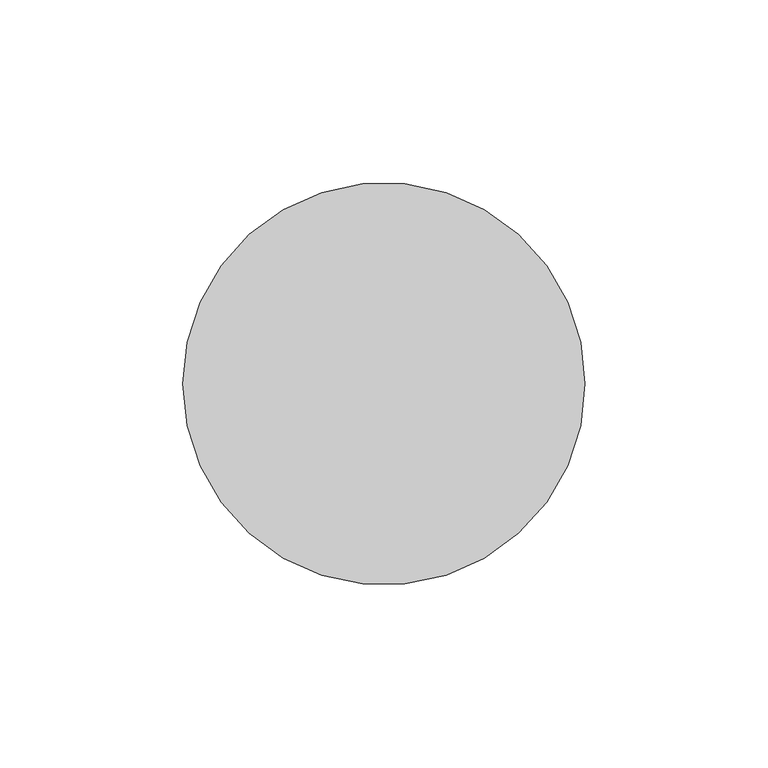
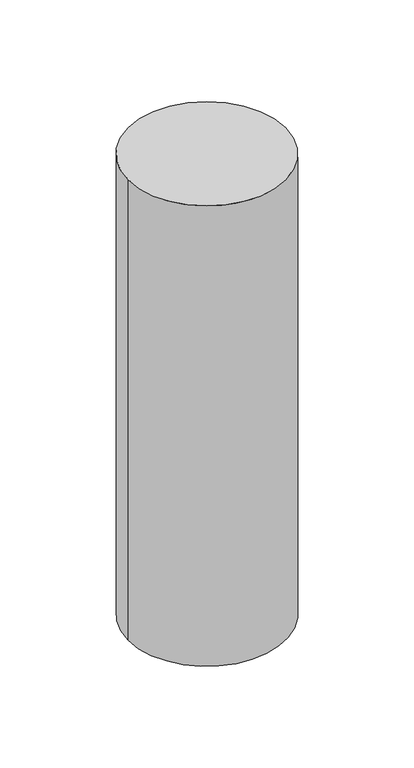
"""IFC4 building model written with IfcOpenShell, lengths in millimetres: proxy geometry, Building Materials_Other_Accessory_LEG_for ATLANTIS : LEG_Ø110."""

from ifc_helpers import new_model, si_unit, point, origin, origin_with_axes, origin_2d, place, context, project, spatial, circle_curve, trimmed, segment, composite_curve, outline, extrude, source, transform, mapped, element, save


def generic_models_4fecf16d(model_context):
    return source(origin(), model_context, "Body", "SweptSolid", [
        extrude(outline(composite_curve([segment(trimmed(circle_curve(origin_2d(), 55.0), [point((-55.0, 0.0))], [point((55.0, 0.0))], False, "CARTESIAN"), True, "CONTINUOUS"), segment(trimmed(circle_curve(origin_2d(), 55.0), [point((55.0, 0.0))], [point((-55.0, 0.0))], False, "CARTESIAN"), True, "CONTINUOUS")], self_intersect=False)), origin_with_axes(), (0.0, 0.0, 1.0), 340.0),
    ])


if __name__ == "__main__":
    model = new_model("IFC4")
    model_context = context("Model", 3, world=origin())
    ifc_project = project(units=[si_unit("LENGTHUNIT", "METRE", prefix="MILLI")], contexts=[model_context])
    site = spatial("IfcSite", under=ifc_project)
    building = spatial("IfcBuilding", under=site)
    placement = place(None, origin())
    generic_models_shape = generic_models_4fecf16d(model_context)
    element("IfcBuildingElementProxy", 1, Name="Building Materials_Other_Accessory_LEG_for ATLANTIS : LEG_Ø110", ObjectType="Building Materials_Other_Accessory_LEG_for ATLANTIS : LEG_Ø110", at=placement, inside=building, context=model_context, shape_type="MappedRepresentation", body=[
        mapped(generic_models_shape, transform((0.0, 0.0, 0.0), x_axis=(1.0, 0.0, 0.0), y_axis=(0.0, 1.0, 0.0), z_axis=(0.0, 0.0, 1.0))),
    ])
    save(model, "model.ifc")
